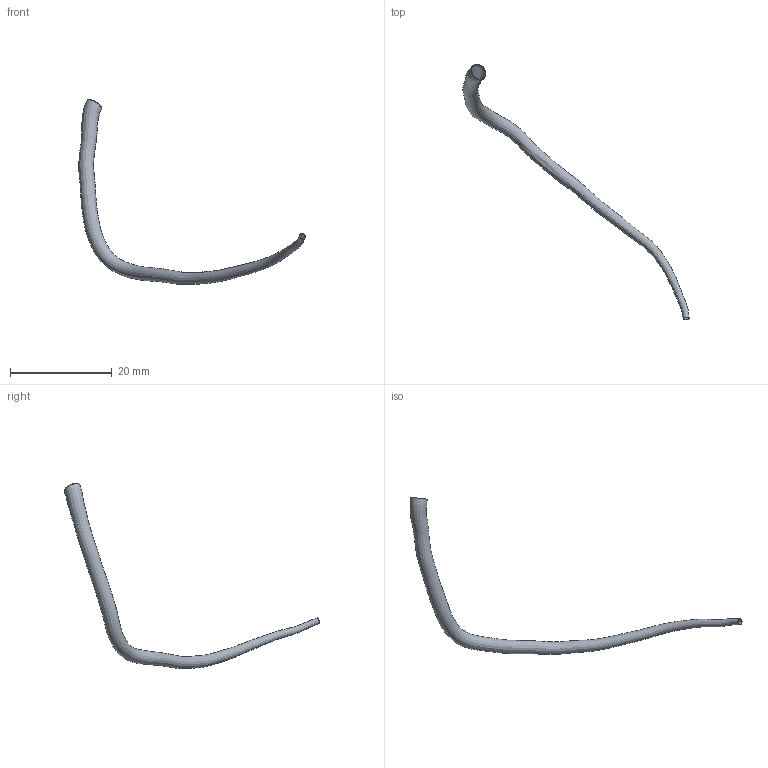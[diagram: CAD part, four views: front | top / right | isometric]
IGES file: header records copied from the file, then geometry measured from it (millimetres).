
Global section: file name: C:\Documents and Settings\Administrator\Desktop\FDA-Pig\Domestic LCA\Pig_000011\lad.seg.ed.igs; native system: Rhinoceros ( May 19 2006 ); preprocessor: Trout Lake IGES 012 May 19 2006; date: 111205.183935; units: centimetre
Bounding box: 44.44 x 50.16 x 36.36 mm (x, y, z)
Surface area: 1334.5 mm2 (no closed solid volume)
Topology: 0 solids, 0 shells, 4 faces, 13 edges, 10 vertices
Faces by surface type: bspline 4
